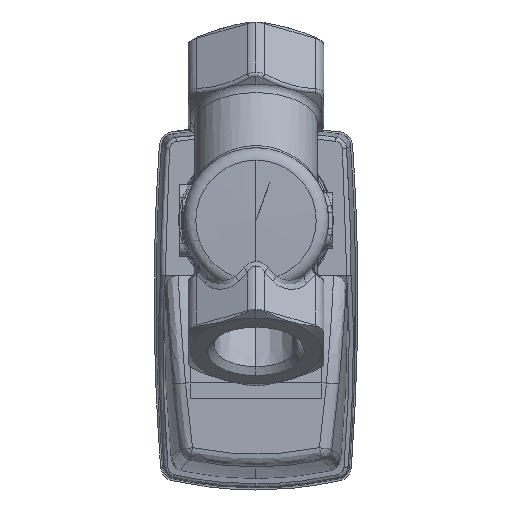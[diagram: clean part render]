
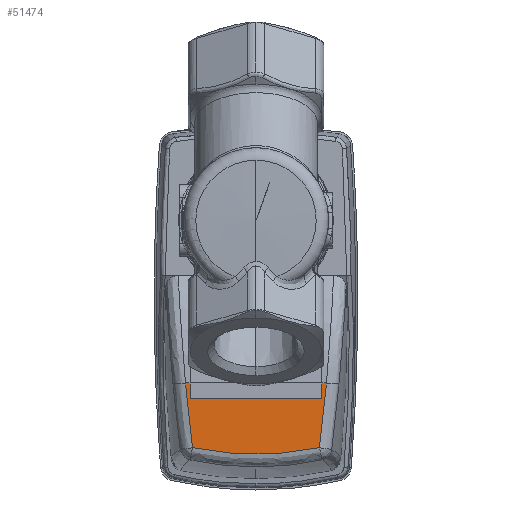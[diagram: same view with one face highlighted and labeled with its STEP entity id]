
A CAD part, front view. The second image highlights one B-rep face of the part: STEP entity #51474.
In plain terms, the highlighted planar face has unit normal (0, -1, 0).
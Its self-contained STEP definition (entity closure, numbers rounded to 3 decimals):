
#259 = ORIENTED_EDGE ( 'NONE', *, *, #72603, .F. ) ;
#737 = EDGE_CURVE ( 'NONE', #11449, #49332, #72299, .T. ) ;
#2821 = CARTESIAN_POINT ( 'NONE',  ( 16.605, 14.401, -38.278 ) ) ;
#2995 = CARTESIAN_POINT ( 'NONE',  ( -15.5, 14.401, -41.88 ) ) ;
#4885 = CARTESIAN_POINT ( 'NONE',  ( 15.5, 14.401, -38.279 ) ) ;
#5539 = LINE ( 'NONE', #45846, #32544 ) ;
#6070 = CARTESIAN_POINT ( 'NONE',  ( -16.201, 14.401, -43.372 ) ) ;
#6954 = CARTESIAN_POINT ( 'NONE',  ( -14.934, 14.401, -53.513 ) ) ;
#7541 = B_SPLINE_CURVE_WITH_KNOTS ( 'NONE', 3,
 ( #83719, #45604, #31527, #59161 ),
 .UNSPECIFIED., .F., .F.,
 ( 4, 4 ),
 ( 0., 1. ),
 .UNSPECIFIED. ) ;
#8257 = CARTESIAN_POINT ( 'NONE',  ( 14.934, 14.401, -53.512 ) ) ;
#10346 = EDGE_CURVE ( 'NONE', #30499, #89148, #22862, .T. ) ;
#10947 = CARTESIAN_POINT ( 'NONE',  ( -15.5, 14.401, -39.479 ) ) ;
#11449 = VERTEX_POINT ( 'NONE', #35059 ) ;
#11625 = B_SPLINE_CURVE_WITH_KNOTS ( 'NONE', 3,
 ( #6954, #67157, #6070, #18780 ),
 .UNSPECIFIED., .F., .F.,
 ( 4, 4 ),
 ( 0., 1. ),
 .UNSPECIFIED. ) ;
#12580 = EDGE_CURVE ( 'NONE', #89148, #13534, #11625, .T. ) ;
#12908 = CARTESIAN_POINT ( 'NONE',  ( -5.167, 14.401, -41.88 ) ) ;
#13534 = VERTEX_POINT ( 'NONE', #66377 ) ;
#14966 = CARTESIAN_POINT ( 'NONE',  ( 14.934, 14.401, -53.512 ) ) ;
#18480 = DIRECTION ( 'NONE',  ( 0., 1., 0. ) ) ;
#18780 = CARTESIAN_POINT ( 'NONE',  ( -16.605, 14.401, -38.278 ) ) ;
#19714 = CARTESIAN_POINT ( 'NONE',  ( 14.934, 14.401, -53.512 ) ) ;
#20512 = CARTESIAN_POINT ( 'NONE',  ( 15.644, 14.401, -48.453 ) ) ;
#21841 = ORIENTED_EDGE ( 'NONE', *, *, #10346, .F. ) ;
#22862 = B_SPLINE_CURVE_WITH_KNOTS ( 'NONE', 3,
 ( #19714, #82988, #74881, #27367, #82099, #61323 ),
 .UNSPECIFIED., .F., .F.,
 ( 4, 2, 4 ),
 ( 0., 0.5, 1. ),
 .UNSPECIFIED. ) ;
#23020 = EDGE_CURVE ( 'NONE', #52608, #11449, #7541, .T. ) ;
#26719 = EDGE_LOOP ( 'NONE', ( #58360, #259, #50556, #75251, #57549, #21841, #59202, #82755 ) ) ;
#27367 = CARTESIAN_POINT ( 'NONE',  ( -5.015, 14.401, -55.078 ) ) ;
#27554 = B_SPLINE_CURVE_WITH_KNOTS ( 'NONE', 3,
 ( #33674, #12908, #40475, #35445 ),
 .UNSPECIFIED., .F., .F.,
 ( 4, 4 ),
 ( 0., 1. ),
 .UNSPECIFIED. ) ;
#27869 = EDGE_CURVE ( 'NONE', #13534, #38976, #5539, .T. ) ;
#30499 = VERTEX_POINT ( 'NONE', #14966 ) ;
#31527 = CARTESIAN_POINT ( 'NONE',  ( 15.5, 14.401, -39.479 ) ) ;
#31720 = CARTESIAN_POINT ( 'NONE',  ( -15.5, 14.401, -41.88 ) ) ;
#32544 = VECTOR ( 'NONE', #60296, 1000. ) ;
#33674 = CARTESIAN_POINT ( 'NONE',  ( -15.5, 14.401, -41.88 ) ) ;
#35059 = CARTESIAN_POINT ( 'NONE',  ( 15.5, 14.401, -38.279 ) ) ;
#35445 = CARTESIAN_POINT ( 'NONE',  ( 15.5, 14.401, -41.88 ) ) ;
#38079 = CARTESIAN_POINT ( 'NONE',  ( -15.5, 14.401, -40.679 ) ) ;
#38976 = VERTEX_POINT ( 'NONE', #74553 ) ;
#40475 = CARTESIAN_POINT ( 'NONE',  ( 5.167, 14.401, -41.88 ) ) ;
#41328 = VERTEX_POINT ( 'NONE', #2995 ) ;
#42490 = AXIS2_PLACEMENT_3D ( 'NONE', #46973, #18480, #47423 ) ;
#44447 = CARTESIAN_POINT ( 'NONE',  ( -15.5, 14.401, -38.279 ) ) ;
#45604 = CARTESIAN_POINT ( 'NONE',  ( 15.5, 14.401, -40.679 ) ) ;
#45846 = CARTESIAN_POINT ( 'NONE',  ( -16.605, 14.401, -38.278 ) ) ;
#46095 = EDGE_CURVE ( 'NONE', #38976, #41328, #80273, .T. ) ;
#46973 = CARTESIAN_POINT ( 'NONE',  ( 0., 14.401, -46.678 ) ) ;
#47149 = B_SPLINE_CURVE_WITH_KNOTS ( 'NONE', 3,
 ( #75691, #62130, #20512, #8257 ),
 .UNSPECIFIED., .F., .F.,
 ( 4, 4 ),
 ( 0., 1. ),
 .UNSPECIFIED. ) ;
#47423 = DIRECTION ( 'NONE',  ( -1., 0., 0. ) ) ;
#47860 = FACE_OUTER_BOUND ( 'NONE', #26719, .T. ) ;
#49332 = VERTEX_POINT ( 'NONE', #2821 ) ;
#50556 = ORIENTED_EDGE ( 'NONE', *, *, #46095, .F. ) ;
#51474 = ADVANCED_FACE ( 'NONE', ( #47860 ), #60090, .F. ) ;
#52608 = VERTEX_POINT ( 'NONE', #54650 ) ;
#54650 = CARTESIAN_POINT ( 'NONE',  ( 15.5, 14.401, -41.88 ) ) ;
#56667 = CARTESIAN_POINT ( 'NONE',  ( -14.934, 14.401, -53.513 ) ) ;
#57549 = ORIENTED_EDGE ( 'NONE', *, *, #12580, .F. ) ;
#58360 = ORIENTED_EDGE ( 'NONE', *, *, #23020, .F. ) ;
#59161 = CARTESIAN_POINT ( 'NONE',  ( 15.5, 14.401, -38.279 ) ) ;
#59202 = ORIENTED_EDGE ( 'NONE', *, *, #89081, .F. ) ;
#60090 = PLANE ( 'NONE',  #42490 ) ;
#60296 = DIRECTION ( 'NONE',  ( 1., 0., 0. ) ) ;
#61323 = CARTESIAN_POINT ( 'NONE',  ( -14.934, 14.401, -53.513 ) ) ;
#62130 = CARTESIAN_POINT ( 'NONE',  ( 16.201, 14.401, -43.372 ) ) ;
#66377 = CARTESIAN_POINT ( 'NONE',  ( -16.605, 14.401, -38.278 ) ) ;
#67157 = CARTESIAN_POINT ( 'NONE',  ( -15.644, 14.401, -48.453 ) ) ;
#68528 = VECTOR ( 'NONE', #86339, 1000. ) ;
#72299 = LINE ( 'NONE', #4885, #68528 ) ;
#72603 = EDGE_CURVE ( 'NONE', #41328, #52608, #27554, .T. ) ;
#74553 = CARTESIAN_POINT ( 'NONE',  ( -15.5, 14.401, -38.279 ) ) ;
#74881 = CARTESIAN_POINT ( 'NONE',  ( 5.014, 14.401, -55.078 ) ) ;
#75251 = ORIENTED_EDGE ( 'NONE', *, *, #27869, .F. ) ;
#75691 = CARTESIAN_POINT ( 'NONE',  ( 16.605, 14.401, -38.278 ) ) ;
#80273 = B_SPLINE_CURVE_WITH_KNOTS ( 'NONE', 3,
 ( #44447, #10947, #38079, #31720 ),
 .UNSPECIFIED., .F., .F.,
 ( 4, 4 ),
 ( 0., 1. ),
 .UNSPECIFIED. ) ;
#82099 = CARTESIAN_POINT ( 'NONE',  ( -10.029, 14.401, -54.553 ) ) ;
#82755 = ORIENTED_EDGE ( 'NONE', *, *, #737, .F. ) ;
#82988 = CARTESIAN_POINT ( 'NONE',  ( 10.029, 14.401, -54.553 ) ) ;
#83719 = CARTESIAN_POINT ( 'NONE',  ( 15.5, 14.401, -41.88 ) ) ;
#86339 = DIRECTION ( 'NONE',  ( 1., 0., 0. ) ) ;
#89081 = EDGE_CURVE ( 'NONE', #49332, #30499, #47149, .T. ) ;
#89148 = VERTEX_POINT ( 'NONE', #56667 ) ;
